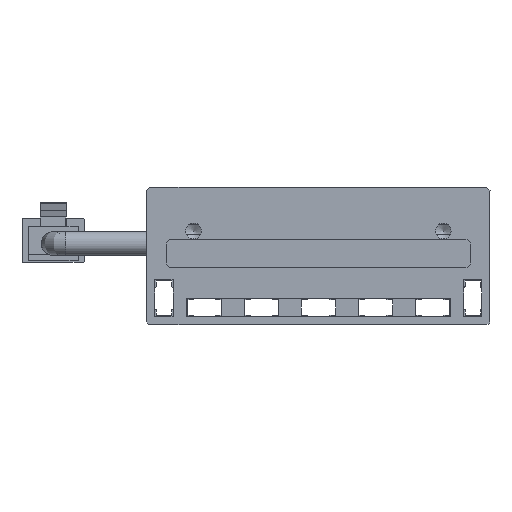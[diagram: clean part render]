
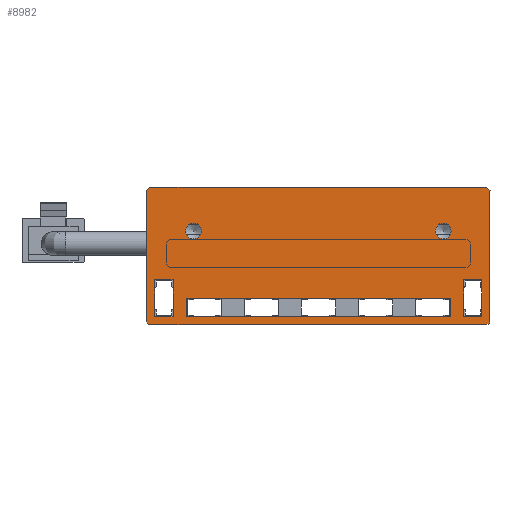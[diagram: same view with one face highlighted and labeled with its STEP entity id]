
A CAD part, front view. The second image highlights one B-rep face of the part: STEP entity #8982.
In plain terms, the highlighted planar face has unit normal (0, -1, 0).
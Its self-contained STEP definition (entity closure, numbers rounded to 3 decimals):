
#72=FACE_BOUND('',#1382,.T.);
#73=FACE_BOUND('',#1383,.T.);
#74=FACE_BOUND('',#1384,.T.);
#75=FACE_BOUND('',#1385,.T.);
#76=FACE_BOUND('',#1386,.T.);
#453=CIRCLE('',#9739,1.265);
#455=CIRCLE('',#9743,1.265);
#457=CIRCLE('',#9759,0.5);
#459=CIRCLE('',#9767,0.5);
#913=FACE_OUTER_BOUND('',#1381,.T.);
#1381=EDGE_LOOP('',(#8141,#8142,#8143,#8144,#8145,#8146,#8147,#8148));
#1382=EDGE_LOOP('',(#8149));
#1383=EDGE_LOOP('',(#8150));
#1384=EDGE_LOOP('',(#8151,#8152,#8153,#8154));
#1385=EDGE_LOOP('',(#8155,#8156,#8157,#8158));
#1386=EDGE_LOOP('',(#8159,#8160,#8161,#8162));
#2379=LINE('',#14772,#3408);
#2382=LINE('',#14778,#3411);
#2385=LINE('',#14784,#3414);
#2388=LINE('',#14788,#3417);
#2391=LINE('',#14796,#3420);
#2394=LINE('',#14802,#3423);
#2397=LINE('',#14808,#3426);
#2400=LINE('',#14812,#3429);
#2403=LINE('',#14820,#3432);
#2406=LINE('',#14826,#3435);
#2409=LINE('',#14832,#3438);
#2412=LINE('',#14836,#3441);
#2415=LINE('',#14844,#3444);
#2419=LINE('',#14856,#3448);
#2422=LINE('',#14862,#3451);
#2425=LINE('',#14868,#3454);
#2428=LINE('',#14874,#3457);
#2431=LINE('',#14880,#3460);
#3408=VECTOR('',#12148,10.);
#3411=VECTOR('',#12153,10.);
#3414=VECTOR('',#12158,10.);
#3417=VECTOR('',#12163,10.);
#3420=VECTOR('',#12168,10.);
#3423=VECTOR('',#12173,10.);
#3426=VECTOR('',#12178,10.);
#3429=VECTOR('',#12183,10.);
#3432=VECTOR('',#12188,10.);
#3435=VECTOR('',#12193,10.);
#3438=VECTOR('',#12198,10.);
#3441=VECTOR('',#12203,10.);
#3444=VECTOR('',#12208,10.);
#3448=VECTOR('',#12220,10.);
#3451=VECTOR('',#12225,10.);
#3454=VECTOR('',#12230,10.);
#3457=VECTOR('',#12235,10.);
#3460=VECTOR('',#12240,10.);
#4280=VERTEX_POINT('',#14753);
#4283=VERTEX_POINT('',#14762);
#4286=VERTEX_POINT('',#14769);
#4287=VERTEX_POINT('',#14771);
#4289=VERTEX_POINT('',#14777);
#4291=VERTEX_POINT('',#14783);
#4294=VERTEX_POINT('',#14793);
#4295=VERTEX_POINT('',#14795);
#4297=VERTEX_POINT('',#14801);
#4299=VERTEX_POINT('',#14807);
#4302=VERTEX_POINT('',#14817);
#4303=VERTEX_POINT('',#14819);
#4305=VERTEX_POINT('',#14825);
#4307=VERTEX_POINT('',#14831);
#4310=VERTEX_POINT('',#14841);
#4311=VERTEX_POINT('',#14843);
#4313=VERTEX_POINT('',#14849);
#4315=VERTEX_POINT('',#14855);
#4317=VERTEX_POINT('',#14861);
#4319=VERTEX_POINT('',#14867);
#4321=VERTEX_POINT('',#14873);
#4323=VERTEX_POINT('',#14879);
#5551=EDGE_CURVE('',#4280,#4280,#453,.T.);
#5555=EDGE_CURVE('',#4283,#4283,#455,.T.);
#5559=EDGE_CURVE('',#4287,#4286,#2379,.T.);
#5562=EDGE_CURVE('',#4289,#4287,#2382,.T.);
#5565=EDGE_CURVE('',#4291,#4289,#2385,.T.);
#5568=EDGE_CURVE('',#4286,#4291,#2388,.T.);
#5571=EDGE_CURVE('',#4295,#4294,#2391,.T.);
#5574=EDGE_CURVE('',#4297,#4295,#2394,.T.);
#5577=EDGE_CURVE('',#4299,#4297,#2397,.T.);
#5580=EDGE_CURVE('',#4294,#4299,#2400,.T.);
#5583=EDGE_CURVE('',#4303,#4302,#2403,.T.);
#5586=EDGE_CURVE('',#4305,#4303,#2406,.T.);
#5589=EDGE_CURVE('',#4307,#4305,#2409,.T.);
#5592=EDGE_CURVE('',#4302,#4307,#2412,.T.);
#5595=EDGE_CURVE('',#4311,#4310,#2415,.T.);
#5598=EDGE_CURVE('',#4313,#4311,#457,.T.);
#5601=EDGE_CURVE('',#4315,#4313,#2419,.T.);
#5604=EDGE_CURVE('',#4317,#4315,#2422,.T.);
#5607=EDGE_CURVE('',#4319,#4317,#2425,.T.);
#5610=EDGE_CURVE('',#4321,#4319,#2428,.T.);
#5613=EDGE_CURVE('',#4323,#4321,#2431,.T.);
#5616=EDGE_CURVE('',#4310,#4323,#459,.T.);
#8141=ORIENTED_EDGE('',*,*,#5616,.T.);
#8142=ORIENTED_EDGE('',*,*,#5613,.T.);
#8143=ORIENTED_EDGE('',*,*,#5610,.T.);
#8144=ORIENTED_EDGE('',*,*,#5607,.T.);
#8145=ORIENTED_EDGE('',*,*,#5604,.T.);
#8146=ORIENTED_EDGE('',*,*,#5601,.T.);
#8147=ORIENTED_EDGE('',*,*,#5598,.T.);
#8148=ORIENTED_EDGE('',*,*,#5595,.T.);
#8149=ORIENTED_EDGE('',*,*,#5551,.T.);
#8150=ORIENTED_EDGE('',*,*,#5555,.T.);
#8151=ORIENTED_EDGE('',*,*,#5592,.T.);
#8152=ORIENTED_EDGE('',*,*,#5589,.T.);
#8153=ORIENTED_EDGE('',*,*,#5586,.T.);
#8154=ORIENTED_EDGE('',*,*,#5583,.T.);
#8155=ORIENTED_EDGE('',*,*,#5580,.T.);
#8156=ORIENTED_EDGE('',*,*,#5577,.T.);
#8157=ORIENTED_EDGE('',*,*,#5574,.T.);
#8158=ORIENTED_EDGE('',*,*,#5571,.T.);
#8159=ORIENTED_EDGE('',*,*,#5568,.T.);
#8160=ORIENTED_EDGE('',*,*,#5565,.T.);
#8161=ORIENTED_EDGE('',*,*,#5562,.T.);
#8162=ORIENTED_EDGE('',*,*,#5559,.T.);
#8527=PLANE('',#9768);
#8982=ADVANCED_FACE('',(#913,#72,#73,#74,#75,#76),#8527,.T.);
#9739=AXIS2_PLACEMENT_3D('',#14754,#12131,#12132);
#9743=AXIS2_PLACEMENT_3D('',#14763,#12141,#12142);
#9759=AXIS2_PLACEMENT_3D('',#14850,#12214,#12215);
#9767=AXIS2_PLACEMENT_3D('',#14884,#12246,#12247);
#9768=AXIS2_PLACEMENT_3D('',#14885,#12248,#12249);
#12131=DIRECTION('center_axis',(0.,1.,0.));
#12132=DIRECTION('ref_axis',(0.,0.,-1.));
#12141=DIRECTION('center_axis',(0.,1.,0.));
#12142=DIRECTION('ref_axis',(0.,0.,-1.));
#12148=DIRECTION('',(0.,0.,-1.));
#12153=DIRECTION('',(1.,0.,0.));
#12158=DIRECTION('',(0.,0.,1.));
#12163=DIRECTION('',(-1.,0.,0.));
#12168=DIRECTION('',(0.,0.,-1.));
#12173=DIRECTION('',(1.,0.,0.));
#12178=DIRECTION('',(0.,0.,1.));
#12183=DIRECTION('',(-1.,0.,0.));
#12188=DIRECTION('',(0.,0.,-1.));
#12193=DIRECTION('',(1.,0.,0.));
#12198=DIRECTION('',(0.,0.,1.));
#12203=DIRECTION('',(-1.,0.,0.));
#12208=DIRECTION('',(1.,0.,0.));
#12214=DIRECTION('center_axis',(0.,-1.,0.));
#12215=DIRECTION('ref_axis',(-1.,0.,0.));
#12220=DIRECTION('',(0.,0.,-1.));
#12225=DIRECTION('',(-0.707,0.,-0.707));
#12230=DIRECTION('',(-1.,0.,0.));
#12235=DIRECTION('',(-0.707,0.,0.707));
#12240=DIRECTION('',(0.,0.,1.));
#12246=DIRECTION('center_axis',(0.,-1.,0.));
#12247=DIRECTION('ref_axis',(0.,0.,-1.));
#12248=DIRECTION('center_axis',(0.,-1.,0.));
#12249=DIRECTION('ref_axis',(1.,0.,0.));
#14753=CARTESIAN_POINT('',(-20.,-337.5,16.265));
#14754=CARTESIAN_POINT('Origin',(-20.,-337.5,15.));
#14762=CARTESIAN_POINT('',(20.,-337.5,16.265));
#14763=CARTESIAN_POINT('Origin',(20.,-337.5,15.));
#14769=CARTESIAN_POINT('',(26.2,-337.5,1.3));
#14771=CARTESIAN_POINT('',(26.2,-337.5,7.2));
#14772=CARTESIAN_POINT('',(26.2,-337.5,7.2));
#14777=CARTESIAN_POINT('',(23.3,-337.5,7.2));
#14778=CARTESIAN_POINT('',(23.3,-337.5,7.2));
#14783=CARTESIAN_POINT('',(23.3,-337.5,1.3));
#14784=CARTESIAN_POINT('',(23.3,-337.5,1.3));
#14788=CARTESIAN_POINT('',(26.2,-337.5,1.3));
#14793=CARTESIAN_POINT('',(21.2,-337.5,1.3));
#14795=CARTESIAN_POINT('',(21.2,-337.5,4.2));
#14796=CARTESIAN_POINT('',(21.2,-337.5,4.2));
#14801=CARTESIAN_POINT('',(-21.2,-337.5,4.2));
#14802=CARTESIAN_POINT('',(-21.2,-337.5,4.2));
#14807=CARTESIAN_POINT('',(-21.2,-337.5,1.3));
#14808=CARTESIAN_POINT('',(-21.2,-337.5,1.3));
#14812=CARTESIAN_POINT('',(21.2,-337.5,1.3));
#14817=CARTESIAN_POINT('',(-23.3,-337.5,1.3));
#14819=CARTESIAN_POINT('',(-23.3,-337.5,7.2));
#14820=CARTESIAN_POINT('',(-23.3,-337.5,7.2));
#14825=CARTESIAN_POINT('',(-26.2,-337.5,7.2));
#14826=CARTESIAN_POINT('',(-26.2,-337.5,7.2));
#14831=CARTESIAN_POINT('',(-26.2,-337.5,1.3));
#14832=CARTESIAN_POINT('',(-26.2,-337.5,1.3));
#14836=CARTESIAN_POINT('',(-23.3,-337.5,1.3));
#14841=CARTESIAN_POINT('',(27.,-337.5,0.));
#14843=CARTESIAN_POINT('',(-27.,-337.5,0.));
#14844=CARTESIAN_POINT('',(-22.,-337.5,0.));
#14849=CARTESIAN_POINT('',(-27.5,-337.5,0.5));
#14850=CARTESIAN_POINT('Origin',(-27.,-337.5,0.5));
#14855=CARTESIAN_POINT('',(-27.5,-337.5,21.5));
#14856=CARTESIAN_POINT('',(-27.5,-337.5,21.5));
#14861=CARTESIAN_POINT('',(-27.,-337.5,22.));
#14862=CARTESIAN_POINT('',(-27.,-337.5,22.));
#14867=CARTESIAN_POINT('',(27.,-337.5,22.));
#14868=CARTESIAN_POINT('',(27.,-337.5,22.));
#14873=CARTESIAN_POINT('',(27.5,-337.5,21.5));
#14874=CARTESIAN_POINT('',(27.5,-337.5,21.5));
#14879=CARTESIAN_POINT('',(27.5,-337.5,0.5));
#14880=CARTESIAN_POINT('',(27.5,-337.5,21.5));
#14884=CARTESIAN_POINT('Origin',(27.,-337.5,0.5));
#14885=CARTESIAN_POINT('Origin',(0.,-337.5,11.));
